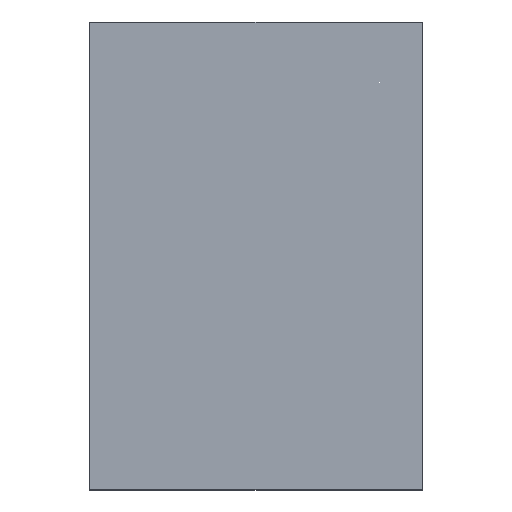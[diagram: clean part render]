
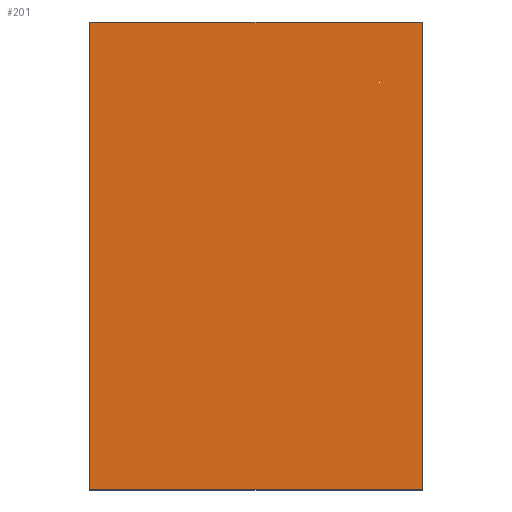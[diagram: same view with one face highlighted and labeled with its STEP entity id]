
A CAD part, front view. The second image highlights one B-rep face of the part: STEP entity #201.
In plain terms, the highlighted planar face has unit normal (0, -1, 0).
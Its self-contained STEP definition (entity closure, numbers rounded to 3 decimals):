
#2 = AXIS2_PLACEMENT_3D ( 'NONE', #434, #325, #356 ) ;
#14 = EDGE_CURVE ( 'NONE', #77, #346, #125, .T. ) ;
#26 = EDGE_CURVE ( 'NONE', #329, #77, #136, .T. ) ;
#77 = VERTEX_POINT ( 'NONE', #242 ) ;
#80 = DIRECTION ( 'NONE',  ( 0., 0., -1. ) ) ;
#96 = ORIENTED_EDGE ( 'NONE', *, *, #116, .T. ) ;
#116 = EDGE_CURVE ( 'NONE', #488, #329, #210, .T. ) ;
#124 = VECTOR ( 'NONE', #142, 1000. ) ;
#125 = LINE ( 'NONE', #619, #124 ) ;
#134 = VECTOR ( 'NONE', #80, 1000. ) ;
#136 = LINE ( 'NONE', #380, #134 ) ;
#142 = DIRECTION ( 'NONE',  ( 1., 0., 0. ) ) ;
#143 = DIRECTION ( 'NONE',  ( -1., 0., 0. ) ) ;
#154 = DIRECTION ( 'NONE',  ( 0., 0., 1. ) ) ;
#155 = FACE_OUTER_BOUND ( 'NONE', #345, .T. ) ;
#201 = ADVANCED_FACE ( 'NONE', ( #155 ), #379, .F. ) ;
#210 = LINE ( 'NONE', #474, #214 ) ;
#214 = VECTOR ( 'NONE', #143, 1000. ) ;
#239 = LINE ( 'NONE', #339, #531 ) ;
#242 = CARTESIAN_POINT ( 'NONE',  ( -247., 0., -347. ) ) ;
#252 = EDGE_CURVE ( 'NONE', #346, #488, #239, .T. ) ;
#325 = DIRECTION ( 'NONE',  ( 0., 1., 0. ) ) ;
#329 = VERTEX_POINT ( 'NONE', #539 ) ;
#339 = CARTESIAN_POINT ( 'NONE',  ( 247., 0., 0. ) ) ;
#345 = EDGE_LOOP ( 'NONE', ( #564, #96, #545, #604 ) ) ;
#346 = VERTEX_POINT ( 'NONE', #641 ) ;
#356 = DIRECTION ( 'NONE',  ( 0., 0., 1. ) ) ;
#379 = PLANE ( 'NONE',  #2 ) ;
#380 = CARTESIAN_POINT ( 'NONE',  ( -247., 0., 0. ) ) ;
#434 = CARTESIAN_POINT ( 'NONE',  ( 0., 0., 0. ) ) ;
#444 = CARTESIAN_POINT ( 'NONE',  ( 247., 0., 347. ) ) ;
#474 = CARTESIAN_POINT ( 'NONE',  ( 0., 0., 347. ) ) ;
#488 = VERTEX_POINT ( 'NONE', #444 ) ;
#531 = VECTOR ( 'NONE', #154, 1000. ) ;
#539 = CARTESIAN_POINT ( 'NONE',  ( -247., 0., 347. ) ) ;
#545 = ORIENTED_EDGE ( 'NONE', *, *, #26, .T. ) ;
#564 = ORIENTED_EDGE ( 'NONE', *, *, #252, .T. ) ;
#604 = ORIENTED_EDGE ( 'NONE', *, *, #14, .T. ) ;
#619 = CARTESIAN_POINT ( 'NONE',  ( 0., 0., -347. ) ) ;
#641 = CARTESIAN_POINT ( 'NONE',  ( 247., 0., -347. ) ) ;
